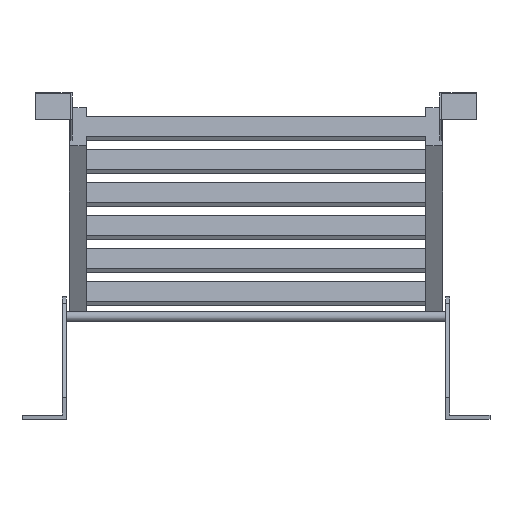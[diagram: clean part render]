
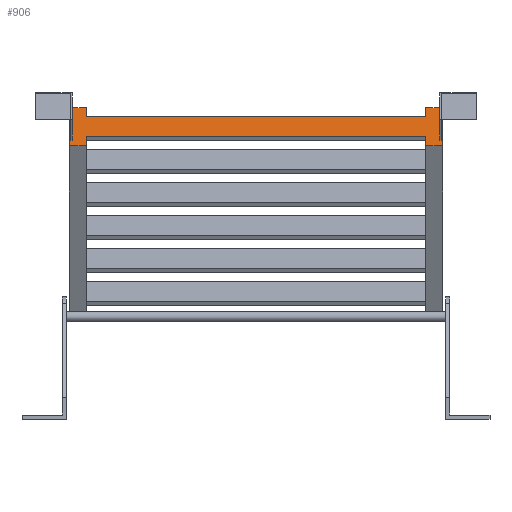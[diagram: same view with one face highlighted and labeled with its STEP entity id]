
A CAD part, front view. The second image highlights one B-rep face of the part: STEP entity #906.
In plain terms, the highlighted planar face has unit normal (0, -0.985, 0.174).
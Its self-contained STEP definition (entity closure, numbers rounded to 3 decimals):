
#153=DIRECTION('',(0.,0.174,0.985));
#154=VECTOR('',#153,13.5);
#155=CARTESIAN_POINT('',(-250.,-1277.048,445.786));
#156=LINE('',#155,#154);
#157=DIRECTION('',(0.,-0.174,-0.985));
#158=VECTOR('',#157,13.5);
#159=CARTESIAN_POINT('',(250.,-1274.703,459.081));
#160=LINE('',#159,#158);
#161=DIRECTION('',(-1.,0.,0.));
#162=VECTOR('',#161,25.);
#163=CARTESIAN_POINT('',(275.,-1274.703,459.081));
#164=LINE('',#163,#162);
#165=DIRECTION('',(0.,0.174,0.985));
#166=VECTOR('',#165,57.);
#167=CARTESIAN_POINT('',(275.,-1284.601,402.947));
#168=LINE('',#167,#166);
#169=DIRECTION('',(1.,0.,0.));
#170=VECTOR('',#169,25.);
#171=CARTESIAN_POINT('',(250.,-1284.601,402.947));
#172=LINE('',#171,#170);
#173=DIRECTION('',(0.,-0.174,-0.985));
#174=VECTOR('',#173,13.5);
#175=CARTESIAN_POINT('',(250.,-1282.257,416.242));
#176=LINE('',#175,#174);
#177=DIRECTION('',(0.,0.174,0.985));
#178=VECTOR('',#177,13.5);
#179=CARTESIAN_POINT('',(-250.,-1284.601,402.947));
#180=LINE('',#179,#178);
#181=DIRECTION('',(1.,0.,0.));
#182=VECTOR('',#181,25.);
#183=CARTESIAN_POINT('',(-275.,-1284.601,402.947));
#184=LINE('',#183,#182);
#185=DIRECTION('',(0.,-0.174,-0.985));
#186=VECTOR('',#185,57.);
#187=CARTESIAN_POINT('',(-275.,-1274.703,459.081));
#188=LINE('',#187,#186);
#189=DIRECTION('',(-1.,0.,0.));
#190=VECTOR('',#189,25.);
#191=CARTESIAN_POINT('',(-250.,-1274.703,459.081));
#192=LINE('',#191,#190);
#193=DIRECTION('',(1.,0.,0.));
#194=VECTOR('',#193,2.);
#195=CARTESIAN_POINT('',(-273.,-1283.125,411.318));
#196=LINE('',#195,#194);
#197=DIRECTION('',(0.,0.174,0.985));
#198=VECTOR('',#197,40.);
#199=CARTESIAN_POINT('',(-271.,-1283.125,411.318));
#200=LINE('',#199,#198);
#201=DIRECTION('',(1.,0.,0.));
#202=VECTOR('',#201,2.);
#203=CARTESIAN_POINT('',(-273.,-1276.179,450.71));
#204=LINE('',#203,#202);
#205=DIRECTION('',(0.,0.174,0.985));
#206=VECTOR('',#205,40.);
#207=CARTESIAN_POINT('',(-273.,-1283.125,411.318));
#208=LINE('',#207,#206);
#209=DIRECTION('',(1.,0.,0.));
#210=VECTOR('',#209,2.);
#211=CARTESIAN_POINT('',(271.,-1283.125,411.318));
#212=LINE('',#211,#210);
#213=DIRECTION('',(0.,0.174,0.985));
#214=VECTOR('',#213,40.);
#215=CARTESIAN_POINT('',(273.,-1283.125,411.318));
#216=LINE('',#215,#214);
#217=DIRECTION('',(1.,0.,0.));
#218=VECTOR('',#217,2.);
#219=CARTESIAN_POINT('',(271.,-1276.179,450.71));
#220=LINE('',#219,#218);
#221=DIRECTION('',(0.,0.174,0.985));
#222=VECTOR('',#221,40.);
#223=CARTESIAN_POINT('',(271.,-1283.125,411.318));
#224=LINE('',#223,#222);
#497=DIRECTION('',(1.,0.,0.));
#498=VECTOR('',#497,500.);
#499=CARTESIAN_POINT('',(-250.,-1282.257,416.242));
#500=LINE('',#499,#498);
#509=DIRECTION('',(1.,0.,0.));
#510=VECTOR('',#509,500.);
#511=CARTESIAN_POINT('',(-250.,-1277.048,445.786));
#512=LINE('',#511,#510);
#657=CARTESIAN_POINT('',(-250.,-1274.703,459.081));
#658=CARTESIAN_POINT('',(-275.,-1274.703,459.081));
#659=VERTEX_POINT('',#657);
#660=VERTEX_POINT('',#658);
#661=CARTESIAN_POINT('',(-275.,-1284.601,402.947));
#662=CARTESIAN_POINT('',(-250.,-1284.601,402.947));
#663=VERTEX_POINT('',#661);
#664=VERTEX_POINT('',#662);
#665=CARTESIAN_POINT('',(275.,-1284.601,402.947));
#666=CARTESIAN_POINT('',(275.,-1274.703,459.081));
#667=VERTEX_POINT('',#665);
#668=VERTEX_POINT('',#666);
#669=CARTESIAN_POINT('',(250.,-1284.601,402.947));
#670=VERTEX_POINT('',#669);
#671=CARTESIAN_POINT('',(250.,-1274.703,459.081));
#672=VERTEX_POINT('',#671);
#753=CARTESIAN_POINT('',(-250.,-1282.257,416.242));
#755=VERTEX_POINT('',#753);
#757=CARTESIAN_POINT('',(-250.,-1277.048,445.786));
#759=VERTEX_POINT('',#757);
#761=CARTESIAN_POINT('',(250.,-1282.257,416.242));
#763=VERTEX_POINT('',#761);
#765=CARTESIAN_POINT('',(250.,-1277.048,445.786));
#767=VERTEX_POINT('',#765);
#785=CARTESIAN_POINT('',(-273.,-1283.125,411.318));
#786=CARTESIAN_POINT('',(-271.,-1283.125,411.318));
#787=VERTEX_POINT('',#785);
#788=VERTEX_POINT('',#786);
#789=CARTESIAN_POINT('',(-273.,-1276.179,450.71));
#790=CARTESIAN_POINT('',(-271.,-1276.179,450.71));
#791=VERTEX_POINT('',#789);
#792=VERTEX_POINT('',#790);
#809=CARTESIAN_POINT('',(271.,-1283.125,411.318));
#810=CARTESIAN_POINT('',(273.,-1283.125,411.318));
#811=VERTEX_POINT('',#809);
#812=VERTEX_POINT('',#810);
#813=CARTESIAN_POINT('',(271.,-1276.179,450.71));
#814=CARTESIAN_POINT('',(273.,-1276.179,450.71));
#815=VERTEX_POINT('',#813);
#816=VERTEX_POINT('',#814);
#857=CARTESIAN_POINT('',(0.,-1314.774,231.83));
#858=DIRECTION('',(0.,0.985,-0.174));
#859=DIRECTION('',(1.,0.,0.));
#860=AXIS2_PLACEMENT_3D('',#857,#858,#859);
#861=PLANE('',#860);
#863=ORIENTED_EDGE('',*,*,#862,.F.);
#865=ORIENTED_EDGE('',*,*,#864,.T.);
#867=ORIENTED_EDGE('',*,*,#866,.F.);
#869=ORIENTED_EDGE('',*,*,#868,.F.);
#871=ORIENTED_EDGE('',*,*,#870,.F.);
#873=ORIENTED_EDGE('',*,*,#872,.F.);
#875=ORIENTED_EDGE('',*,*,#874,.F.);
#877=ORIENTED_EDGE('',*,*,#876,.F.);
#879=ORIENTED_EDGE('',*,*,#878,.F.);
#881=ORIENTED_EDGE('',*,*,#880,.F.);
#883=ORIENTED_EDGE('',*,*,#882,.F.);
#885=ORIENTED_EDGE('',*,*,#884,.F.);
#886=EDGE_LOOP('',(#863,#865,#867,#869,#871,#873,#875,#877,#879,#881,#883,
#885));
#887=FACE_OUTER_BOUND('',#886,.F.);
#888=ORIENTED_EDGE('',*,*,#822,.T.);
#890=ORIENTED_EDGE('',*,*,#889,.T.);
#892=ORIENTED_EDGE('',*,*,#891,.F.);
#894=ORIENTED_EDGE('',*,*,#893,.F.);
#895=EDGE_LOOP('',(#888,#890,#892,#894));
#896=FACE_BOUND('',#895,.F.);
#897=ORIENTED_EDGE('',*,*,#842,.T.);
#899=ORIENTED_EDGE('',*,*,#898,.T.);
#901=ORIENTED_EDGE('',*,*,#900,.F.);
#903=ORIENTED_EDGE('',*,*,#902,.F.);
#904=EDGE_LOOP('',(#897,#899,#901,#903));
#905=FACE_BOUND('',#904,.F.);
#822=EDGE_CURVE('',#787,#788,#196,.T.);
#842=EDGE_CURVE('',#811,#812,#212,.T.);
#862=EDGE_CURVE('',#759,#659,#156,.T.);
#864=EDGE_CURVE('',#759,#767,#512,.T.);
#866=EDGE_CURVE('',#672,#767,#160,.T.);
#868=EDGE_CURVE('',#668,#672,#164,.T.);
#870=EDGE_CURVE('',#667,#668,#168,.T.);
#872=EDGE_CURVE('',#670,#667,#172,.T.);
#874=EDGE_CURVE('',#763,#670,#176,.T.);
#876=EDGE_CURVE('',#755,#763,#500,.T.);
#878=EDGE_CURVE('',#664,#755,#180,.T.);
#880=EDGE_CURVE('',#663,#664,#184,.T.);
#882=EDGE_CURVE('',#660,#663,#188,.T.);
#884=EDGE_CURVE('',#659,#660,#192,.T.);
#889=EDGE_CURVE('',#788,#792,#200,.T.);
#891=EDGE_CURVE('',#791,#792,#204,.T.);
#893=EDGE_CURVE('',#787,#791,#208,.T.);
#898=EDGE_CURVE('',#812,#816,#216,.T.);
#900=EDGE_CURVE('',#815,#816,#220,.T.);
#902=EDGE_CURVE('',#811,#815,#224,.T.);
#906=ADVANCED_FACE('',(#887,#896,#905),#861,.F.);
